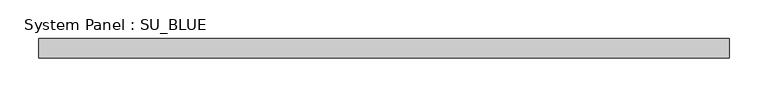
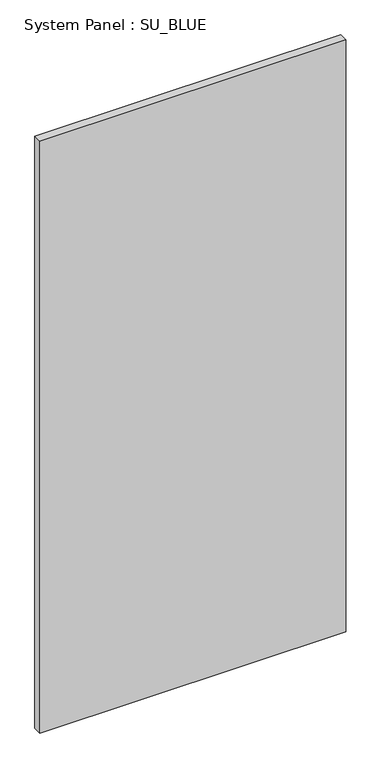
"""IFC4 building model written with IfcOpenShell, lengths in millimetres: plate geometry, System Panel : SU_BLUE."""

from ifc_helpers import new_model, si_unit, origin, origin_with_axes, place, context, project, spatial, polyline, outline, extrude, source, transform, mapped, element, save


def system_panel_su_blue_8e1787b9(model_context):
    return source(origin(), model_context, "Body", "SweptSolid", [
        extrude(outline(polyline([(447.1096078, 19.05), (-447.1096078, 19.05), (-447.1096078, 44.45), (447.1096078, 44.45), (447.1096078, 19.05)])), origin_with_axes(), (0.0, 0.0, 1.0), 1828.8),
    ])


if __name__ == "__main__":
    model = new_model("IFC4")
    model_context = context("Model", 3, world=origin())
    ifc_project = project(units=[si_unit("LENGTHUNIT", "METRE", prefix="MILLI")], contexts=[model_context])
    site = spatial("IfcSite", under=ifc_project)
    building = spatial("IfcBuilding", under=site)
    placement = place(None, origin())
    system_panel_su_blue_shape = system_panel_su_blue_8e1787b9(model_context)
    element("IfcPlate", 1, ObjectType="System Panel : SU_BLUE", at=placement, inside=building, context=model_context, shape_type="MappedRepresentation", body=[
        mapped(system_panel_su_blue_shape, transform((0.0, 0.0, 0.0), x_axis=(1.0, 0.0, 0.0), y_axis=(0.0, 1.0, 0.0), z_axis=(0.0, 0.0, 1.0))),
    ])
    save(model, "model.ifc")
